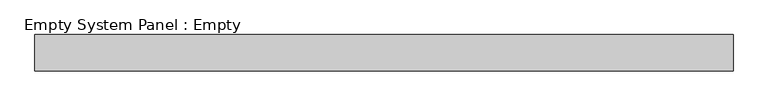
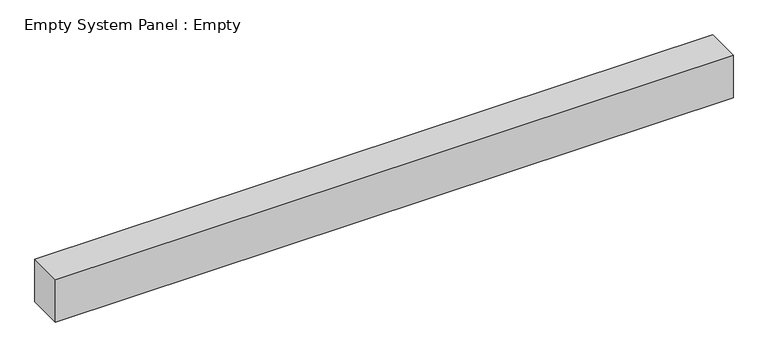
"""IFC4 building model written with IfcOpenShell, lengths in millimetres: plate geometry, Empty System Panel : Empty."""

from ifc_helpers import new_model, si_unit, origin, origin_with_axes, place, context, project, spatial, polyline, outline, extrude, source, transform, mapped, element, save


def empty_system_panel_empty_3140acd4(model_context):
    return source(origin(), model_context, "Body", "SweptSolid", [
        extrude(outline(polyline([(962.5, -50.0), (-962.5, -50.0), (-962.5, 50.0), (962.5, 50.0), (962.5, -50.0)])), origin_with_axes(), (0.0, 0.0, 1.0), 127.5),
    ])


if __name__ == "__main__":
    model = new_model("IFC4")
    model_context = context("Model", 3, world=origin())
    ifc_project = project(units=[si_unit("LENGTHUNIT", "METRE", prefix="MILLI")], contexts=[model_context])
    site = spatial("IfcSite", under=ifc_project)
    building = spatial("IfcBuilding", under=site)
    placement = place(None, origin())
    empty_system_panel_empty_shape = empty_system_panel_empty_3140acd4(model_context)
    element("IfcPlate", 1, ObjectType="Empty System Panel : Empty", at=placement, inside=building, context=model_context, shape_type="MappedRepresentation", body=[
        mapped(empty_system_panel_empty_shape, transform((0.0, 0.0, 0.0), x_axis=(1.0, 0.0, 0.0), y_axis=(0.0, 1.0, 0.0), z_axis=(0.0, 0.0, 1.0))),
    ])
    save(model, "model.ifc")
